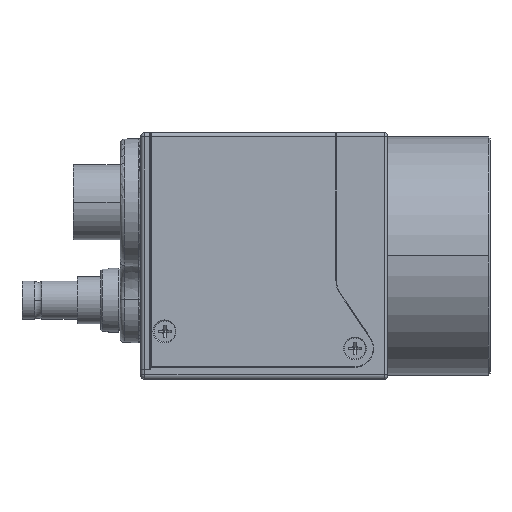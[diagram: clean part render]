
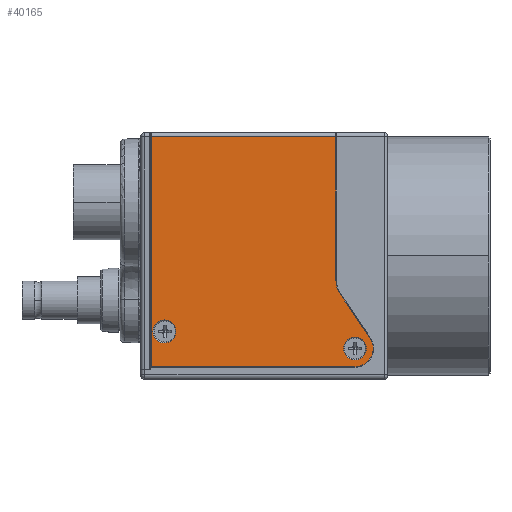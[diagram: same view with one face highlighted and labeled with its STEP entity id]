
A CAD part, top view. The second image highlights one B-rep face of the part: STEP entity #40165.
In plain terms, the highlighted planar face has unit normal (0, 0, 1) as drawn and (1, 0, 0) by its records, which use the part's own axes.
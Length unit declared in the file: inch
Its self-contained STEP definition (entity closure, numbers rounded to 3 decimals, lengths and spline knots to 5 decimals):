
#39186=DIRECTION('',(0.,-1.,0.));
#39187=VECTOR('',#39186,1.06496);
#39188=CARTESIAN_POINT('',(0.57087,1.06693,
0.42815));
#39189=LINE('',#39188,#39187);
#39194=DIRECTION('',(0.,0.,1.));
#39195=VECTOR('',#39194,0.94291);
#39196=CARTESIAN_POINT('',(0.57087,0.00197,
-0.51476));
#39197=LINE('',#39196,#39195);
#39198=DIRECTION('',(0.,-1.,0.));
#39199=VECTOR('',#39198,0.66076);
#39200=CARTESIAN_POINT('',(0.57087,1.06693,
-0.42618));
#39201=LINE('',#39200,#39199);
#39202=CARTESIAN_POINT('',(0.57087,0.40617,
-0.54626));
#39203=DIRECTION('',(1.,0.,0.));
#39204=DIRECTION('',(0.,0.,1.));
#39205=AXIS2_PLACEMENT_3D('',#39202,#39203,#39204);
#39207=DIRECTION('',(0.,-0.829,-0.559));
#39208=VECTOR('',#39207,0.24738);
#39209=CARTESIAN_POINT('',(0.57087,0.33905,
-0.44669));
#39210=LINE('',#39209,#39208);
#39211=CARTESIAN_POINT('',(0.57087,0.08661,
-0.51476));
#39212=DIRECTION('',(-1.,0.,0.));
#39213=DIRECTION('',(0.,0.559,-0.829));
#39214=AXIS2_PLACEMENT_3D('',#39211,#39212,#39213);
#39216=CARTESIAN_POINT('',(0.57087,0.08661,
-0.51476));
#39217=DIRECTION('',(-1.,0.,0.));
#39218=DIRECTION('',(0.,0.,-1.));
#39219=AXIS2_PLACEMENT_3D('',#39216,#39217,#39218);
#39221=CARTESIAN_POINT('',(0.57087,0.16535,
0.36713));
#39222=DIRECTION('',(1.,0.,0.));
#39223=DIRECTION('',(0.,0.,1.));
#39224=AXIS2_PLACEMENT_3D('',#39221,#39222,#39223);
#39226=CARTESIAN_POINT('',(0.57087,0.16535,
0.36713));
#39227=DIRECTION('',(1.,0.,0.));
#39228=DIRECTION('',(0.,0.,-1.));
#39229=AXIS2_PLACEMENT_3D('',#39226,#39227,#39228);
#39231=CARTESIAN_POINT('',(0.57087,0.08661,
-0.51476));
#39232=DIRECTION('',(1.,0.,0.));
#39233=DIRECTION('',(0.,0.,1.));
#39234=AXIS2_PLACEMENT_3D('',#39231,#39232,#39233);
#39236=CARTESIAN_POINT('',(0.57087,0.08661,
-0.51476));
#39237=DIRECTION('',(1.,0.,0.));
#39238=DIRECTION('',(0.,0.,-1.));
#39239=AXIS2_PLACEMENT_3D('',#39236,#39237,#39238);
#39241=DIRECTION('',(0.,0.,1.));
#39242=VECTOR('',#39241,0.85433);
#39243=CARTESIAN_POINT('',(0.57087,1.06693,
-0.42618));
#39244=LINE('',#39243,#39242);
#39860=CARTESIAN_POINT('',(0.57087,0.00197,
0.42815));
#39862=VERTEX_POINT('',#39860);
#39897=CARTESIAN_POINT('',(0.57087,1.06693,
0.42815));
#39898=VERTEX_POINT('',#39897);
#39899=CARTESIAN_POINT('',(0.57087,0.00197,
-0.51476));
#39900=VERTEX_POINT('',#39899);
#39903=CARTESIAN_POINT('',(0.57087,1.06693,
-0.42618));
#39904=VERTEX_POINT('',#39903);
#39905=CARTESIAN_POINT('',(0.57087,0.40617,
-0.42618));
#39906=VERTEX_POINT('',#39905);
#39907=CARTESIAN_POINT('',(0.57087,0.33905,
-0.44669));
#39908=VERTEX_POINT('',#39907);
#39909=CARTESIAN_POINT('',(0.57087,0.13392,
-0.58495));
#39910=VERTEX_POINT('',#39909);
#39911=CARTESIAN_POINT('',(0.57087,0.08661,
-0.59941));
#39912=VERTEX_POINT('',#39911);
#39913=CARTESIAN_POINT('',(0.57087,0.16535,
0.42028));
#39914=CARTESIAN_POINT('',(0.57087,0.16535,
0.31398));
#39915=VERTEX_POINT('',#39913);
#39916=VERTEX_POINT('',#39914);
#39917=CARTESIAN_POINT('',(0.57087,0.08661,
-0.46161));
#39918=CARTESIAN_POINT('',(0.57087,0.08661,
-0.56791));
#39919=VERTEX_POINT('',#39917);
#39920=VERTEX_POINT('',#39918);
#40132=CARTESIAN_POINT('',(0.57087,0.,-0.42815));
#40133=DIRECTION('',(1.,0.,0.));
#40134=DIRECTION('',(0.,1.,0.));
#40135=AXIS2_PLACEMENT_3D('',#40132,#40133,#40134);
#40136=PLANE('',#40135);
#40137=ORIENTED_EDGE('',*,*,#40122,.T.);
#40138=ORIENTED_EDGE('',*,*,#40112,.F.);
#40140=ORIENTED_EDGE('',*,*,#40139,.F.);
#40142=ORIENTED_EDGE('',*,*,#40141,.T.);
#40144=ORIENTED_EDGE('',*,*,#40143,.T.);
#40146=ORIENTED_EDGE('',*,*,#40145,.T.);
#40148=ORIENTED_EDGE('',*,*,#40147,.T.);
#40150=ORIENTED_EDGE('',*,*,#40149,.T.);
#40151=EDGE_LOOP('',(#40137,#40138,#40140,#40142,#40144,#40146,#40148,#40150));
#40152=FACE_OUTER_BOUND('',#40151,.F.);
#40154=ORIENTED_EDGE('',*,*,#40153,.T.);
#40156=ORIENTED_EDGE('',*,*,#40155,.T.);
#40157=EDGE_LOOP('',(#40154,#40156));
#40158=FACE_BOUND('',#40157,.F.);
#40160=ORIENTED_EDGE('',*,*,#40159,.T.);
#40162=ORIENTED_EDGE('',*,*,#40161,.T.);
#40163=EDGE_LOOP('',(#40160,#40162));
#40164=FACE_BOUND('',#40163,.F.);
#40165=ADVANCED_FACE('',(#40152,#40158,#40164),#40136,.T.);
#39206=CIRCLE('',#39205,0.12008);
#39215=CIRCLE('',#39214,0.08465);
#39220=CIRCLE('',#39219,0.08465);
#39225=CIRCLE('',#39224,0.05315);
#39230=CIRCLE('',#39229,0.05315);
#39235=CIRCLE('',#39234,0.05315);
#39240=CIRCLE('',#39239,0.05315);
#40112=EDGE_CURVE('',#39898,#39862,#39189,.T.);
#40122=EDGE_CURVE('',#39900,#39862,#39197,.T.);
#40139=EDGE_CURVE('',#39904,#39898,#39244,.T.);
#40141=EDGE_CURVE('',#39904,#39906,#39201,.T.);
#40143=EDGE_CURVE('',#39906,#39908,#39206,.T.);
#40145=EDGE_CURVE('',#39908,#39910,#39210,.T.);
#40147=EDGE_CURVE('',#39910,#39912,#39215,.T.);
#40149=EDGE_CURVE('',#39912,#39900,#39220,.T.);
#40153=EDGE_CURVE('',#39915,#39916,#39225,.T.);
#40155=EDGE_CURVE('',#39916,#39915,#39230,.T.);
#40159=EDGE_CURVE('',#39919,#39920,#39235,.T.);
#40161=EDGE_CURVE('',#39920,#39919,#39240,.T.);
